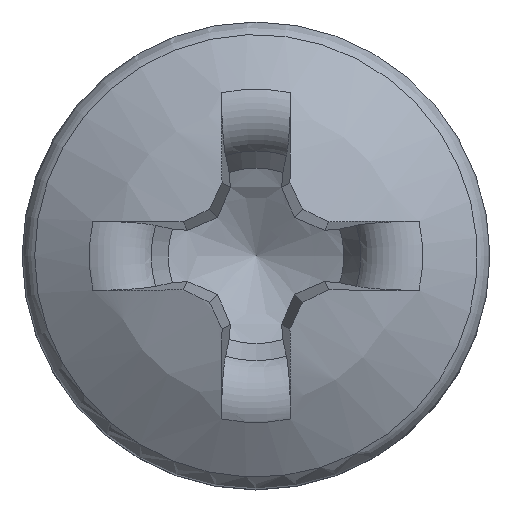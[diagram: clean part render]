
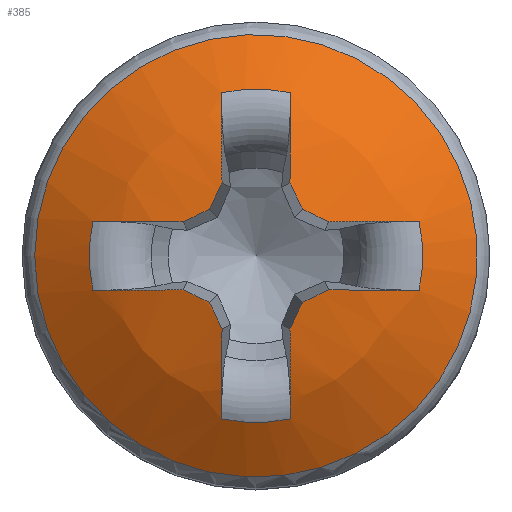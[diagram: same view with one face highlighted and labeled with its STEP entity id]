
A CAD part, top view. The second image highlights one B-rep face of the part: STEP entity #385.
In plain terms, the highlighted spherical face has radius 4.847 mm.
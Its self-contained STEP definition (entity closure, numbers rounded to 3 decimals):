
#348=SPHERICAL_SURFACE('',#2068,4.847);
#359=FACE_BOUND('',#640,.T.);
#360=FACE_BOUND('',#641,.T.);
#385=ADVANCED_FACE('',(#359,#360),#348,.T.);
#640=EDGE_LOOP('',(#863));
#641=EDGE_LOOP('',(#864,#865,#866,#867,#868,#869,#870,#871,#872,#873,#874,
#875,#876,#877,#878,#879,#880,#881,#882,#883));
#778=CIRCLE('',#2047,2.885);
#779=CIRCLE('',#2048,4.847);
#780=CIRCLE('',#2049,2.174);
#781=CIRCLE('',#2050,4.847);
#782=CIRCLE('',#2051,4.836);
#783=CIRCLE('',#2052,4.836);
#784=CIRCLE('',#2053,4.847);
#785=CIRCLE('',#2054,2.174);
#786=CIRCLE('',#2055,4.847);
#787=CIRCLE('',#2056,4.836);
#788=CIRCLE('',#2057,4.836);
#789=CIRCLE('',#2058,4.847);
#790=CIRCLE('',#2059,2.174);
#791=CIRCLE('',#2060,4.847);
#792=CIRCLE('',#2061,4.836);
#793=CIRCLE('',#2062,4.836);
#794=CIRCLE('',#2063,4.847);
#795=CIRCLE('',#2064,2.174);
#796=CIRCLE('',#2065,4.847);
#797=CIRCLE('',#2066,4.836);
#798=CIRCLE('',#2067,4.836);
#863=ORIENTED_EDGE('',*,*,#1633,.T.);
#864=ORIENTED_EDGE('',*,*,#1634,.F.);
#865=ORIENTED_EDGE('',*,*,#1635,.T.);
#866=ORIENTED_EDGE('',*,*,#1636,.F.);
#867=ORIENTED_EDGE('',*,*,#1637,.F.);
#868=ORIENTED_EDGE('',*,*,#1638,.F.);
#869=ORIENTED_EDGE('',*,*,#1639,.F.);
#870=ORIENTED_EDGE('',*,*,#1640,.T.);
#871=ORIENTED_EDGE('',*,*,#1641,.F.);
#872=ORIENTED_EDGE('',*,*,#1642,.F.);
#873=ORIENTED_EDGE('',*,*,#1643,.F.);
#874=ORIENTED_EDGE('',*,*,#1644,.F.);
#875=ORIENTED_EDGE('',*,*,#1645,.T.);
#876=ORIENTED_EDGE('',*,*,#1646,.F.);
#877=ORIENTED_EDGE('',*,*,#1647,.F.);
#878=ORIENTED_EDGE('',*,*,#1648,.F.);
#879=ORIENTED_EDGE('',*,*,#1649,.F.);
#880=ORIENTED_EDGE('',*,*,#1650,.T.);
#881=ORIENTED_EDGE('',*,*,#1651,.F.);
#882=ORIENTED_EDGE('',*,*,#1652,.F.);
#883=ORIENTED_EDGE('',*,*,#1653,.F.);
#1453=VERTEX_POINT('',#4444);
#1454=VERTEX_POINT('',#4446);
#1455=VERTEX_POINT('',#4447);
#1456=VERTEX_POINT('',#4449);
#1457=VERTEX_POINT('',#4451);
#1458=VERTEX_POINT('',#4453);
#1459=VERTEX_POINT('',#4455);
#1460=VERTEX_POINT('',#4457);
#1461=VERTEX_POINT('',#4459);
#1462=VERTEX_POINT('',#4461);
#1463=VERTEX_POINT('',#4463);
#1464=VERTEX_POINT('',#4465);
#1465=VERTEX_POINT('',#4467);
#1466=VERTEX_POINT('',#4469);
#1467=VERTEX_POINT('',#4471);
#1468=VERTEX_POINT('',#4473);
#1469=VERTEX_POINT('',#4475);
#1470=VERTEX_POINT('',#4477);
#1471=VERTEX_POINT('',#4479);
#1472=VERTEX_POINT('',#4481);
#1473=VERTEX_POINT('',#4483);
#1633=EDGE_CURVE('',#1453,#1453,#778,.T.);
#1634=EDGE_CURVE('',#1454,#1455,#779,.T.);
#1635=EDGE_CURVE('',#1454,#1456,#780,.T.);
#1636=EDGE_CURVE('',#1457,#1456,#781,.T.);
#1637=EDGE_CURVE('',#1458,#1457,#782,.T.);
#1638=EDGE_CURVE('',#1459,#1458,#783,.T.);
#1639=EDGE_CURVE('',#1460,#1459,#784,.T.);
#1640=EDGE_CURVE('',#1460,#1461,#785,.T.);
#1641=EDGE_CURVE('',#1462,#1461,#786,.T.);
#1642=EDGE_CURVE('',#1463,#1462,#787,.T.);
#1643=EDGE_CURVE('',#1464,#1463,#788,.T.);
#1644=EDGE_CURVE('',#1465,#1464,#789,.T.);
#1645=EDGE_CURVE('',#1465,#1466,#790,.T.);
#1646=EDGE_CURVE('',#1467,#1466,#791,.T.);
#1647=EDGE_CURVE('',#1468,#1467,#792,.T.);
#1648=EDGE_CURVE('',#1469,#1468,#793,.T.);
#1649=EDGE_CURVE('',#1470,#1469,#794,.T.);
#1650=EDGE_CURVE('',#1470,#1471,#795,.T.);
#1651=EDGE_CURVE('',#1472,#1471,#796,.T.);
#1652=EDGE_CURVE('',#1473,#1472,#797,.T.);
#1653=EDGE_CURVE('',#1455,#1473,#798,.T.);
#2047=AXIS2_PLACEMENT_3D('',#4443,#2132,#2133);
#2048=AXIS2_PLACEMENT_3D('',#4445,#2134,#2135);
#2049=AXIS2_PLACEMENT_3D('',#4448,#2136,#2137);
#2050=AXIS2_PLACEMENT_3D('',#4450,#2138,#2139);
#2051=AXIS2_PLACEMENT_3D('',#4452,#2140,#2141);
#2052=AXIS2_PLACEMENT_3D('',#4454,#2142,#2143);
#2053=AXIS2_PLACEMENT_3D('',#4456,#2144,#2145);
#2054=AXIS2_PLACEMENT_3D('',#4458,#2146,#2147);
#2055=AXIS2_PLACEMENT_3D('',#4460,#2148,#2149);
#2056=AXIS2_PLACEMENT_3D('',#4462,#2150,#2151);
#2057=AXIS2_PLACEMENT_3D('',#4464,#2152,#2153);
#2058=AXIS2_PLACEMENT_3D('',#4466,#2154,#2155);
#2059=AXIS2_PLACEMENT_3D('',#4468,#2156,#2157);
#2060=AXIS2_PLACEMENT_3D('',#4470,#2158,#2159);
#2061=AXIS2_PLACEMENT_3D('',#4472,#2160,#2161);
#2062=AXIS2_PLACEMENT_3D('',#4474,#2162,#2163);
#2063=AXIS2_PLACEMENT_3D('',#4476,#2164,#2165);
#2064=AXIS2_PLACEMENT_3D('',#4478,#2166,#2167);
#2065=AXIS2_PLACEMENT_3D('',#4480,#2168,#2169);
#2066=AXIS2_PLACEMENT_3D('',#4482,#2170,#2171);
#2067=AXIS2_PLACEMENT_3D('',#4484,#2172,#2173);
#2068=AXIS2_PLACEMENT_3D('',#4485,#2174,#2175);
#2132=DIRECTION('',(0.,0.,1.));
#2133=DIRECTION('',(-1.,0.,0.));
#2134=DIRECTION('',(-0.996,-0.035,0.087));
#2135=DIRECTION('',(0.087,0.,0.996));
#2136=DIRECTION('',(0.,0.,-1.));
#2137=DIRECTION('',(-1.,0.,0.));
#2138=DIRECTION('',(0.996,-0.035,0.087));
#2139=DIRECTION('',(0.087,0.,-0.996));
#2140=DIRECTION('',(0.902,0.42,0.1));
#2141=DIRECTION('',(-0.423,0.906,0.));
#2142=DIRECTION('',(0.42,0.902,0.1));
#2143=DIRECTION('',(-0.906,0.423,0.));
#2144=DIRECTION('',(-0.035,0.996,0.087));
#2145=DIRECTION('',(0.,-0.087,0.996));
#2146=DIRECTION('',(0.,0.,-1.));
#2147=DIRECTION('',(-1.,0.,0.));
#2148=DIRECTION('',(-0.035,-0.996,0.087));
#2149=DIRECTION('',(0.,-0.087,-0.996));
#2150=DIRECTION('',(0.42,-0.902,0.1));
#2151=DIRECTION('',(0.906,0.423,0.));
#2152=DIRECTION('',(0.902,-0.42,0.1));
#2153=DIRECTION('',(0.423,0.906,0.));
#2154=DIRECTION('',(0.996,0.035,0.087));
#2155=DIRECTION('',(0.087,0.,-0.996));
#2156=DIRECTION('',(0.,0.,-1.));
#2157=DIRECTION('',(-1.,0.,0.));
#2158=DIRECTION('',(-0.996,0.035,0.087));
#2159=DIRECTION('',(0.087,0.,0.996));
#2160=DIRECTION('',(-0.902,-0.42,0.1));
#2161=DIRECTION('',(0.423,-0.906,0.));
#2162=DIRECTION('',(-0.42,-0.902,0.1));
#2163=DIRECTION('',(0.906,-0.423,0.));
#2164=DIRECTION('',(0.035,-0.996,0.087));
#2165=DIRECTION('',(0.,-0.087,-0.996));
#2166=DIRECTION('',(0.,0.,-1.));
#2167=DIRECTION('',(-1.,0.,0.));
#2168=DIRECTION('',(0.035,0.996,0.087));
#2169=DIRECTION('',(0.,-0.087,0.996));
#2170=DIRECTION('',(-0.42,0.902,0.1));
#2171=DIRECTION('',(-0.906,-0.423,0.));
#2172=DIRECTION('',(-0.902,0.42,0.1));
#2173=DIRECTION('',(-0.423,-0.906,0.));
#2174=DIRECTION('',(0.,0.,1.));
#2175=DIRECTION('',(0.,1.,0.));
#4443=CARTESIAN_POINT('',(0.,0.,1.747));
#4444=CARTESIAN_POINT('',(-2.885,0.,1.747));
#4445=CARTESIAN_POINT('',(-0.005,0.,-2.146));
#4446=CARTESIAN_POINT('',(0.449,-2.127,2.185));
#4447=CARTESIAN_POINT('',(0.443,-0.951,2.585));
#4448=CARTESIAN_POINT('',(0.,0.,2.185));
#4449=CARTESIAN_POINT('',(-0.449,-2.127,2.185));
#4450=CARTESIAN_POINT('',(0.005,0.,-2.146));
#4451=CARTESIAN_POINT('',(-0.443,-0.951,2.585));
#4452=CARTESIAN_POINT('',(-0.293,-0.137,-2.179));
#4453=CARTESIAN_POINT('',(-0.607,-0.607,2.623));
#4454=CARTESIAN_POINT('',(-0.137,-0.293,-2.179));
#4455=CARTESIAN_POINT('',(-0.951,-0.443,2.585));
#4456=CARTESIAN_POINT('',(0.,0.005,-2.146));
#4457=CARTESIAN_POINT('',(-2.127,-0.449,2.185));
#4458=CARTESIAN_POINT('',(0.,0.,2.185));
#4459=CARTESIAN_POINT('',(-2.127,0.449,2.185));
#4460=CARTESIAN_POINT('',(0.,-0.005,-2.146));
#4461=CARTESIAN_POINT('',(-0.951,0.443,2.585));
#4462=CARTESIAN_POINT('',(-0.137,0.293,-2.179));
#4463=CARTESIAN_POINT('',(-0.607,0.607,2.623));
#4464=CARTESIAN_POINT('',(-0.293,0.137,-2.179));
#4465=CARTESIAN_POINT('',(-0.443,0.951,2.585));
#4466=CARTESIAN_POINT('',(0.005,0.,-2.146));
#4467=CARTESIAN_POINT('',(-0.449,2.127,2.185));
#4468=CARTESIAN_POINT('',(0.,0.,2.185));
#4469=CARTESIAN_POINT('',(0.449,2.127,2.185));
#4470=CARTESIAN_POINT('',(-0.005,0.,-2.146));
#4471=CARTESIAN_POINT('',(0.443,0.951,2.585));
#4472=CARTESIAN_POINT('',(0.293,0.137,-2.179));
#4473=CARTESIAN_POINT('',(0.607,0.607,2.623));
#4474=CARTESIAN_POINT('',(0.137,0.293,-2.179));
#4475=CARTESIAN_POINT('',(0.951,0.443,2.585));
#4476=CARTESIAN_POINT('',(0.,-0.005,-2.146));
#4477=CARTESIAN_POINT('',(2.127,0.449,2.185));
#4478=CARTESIAN_POINT('',(0.,0.,2.185));
#4479=CARTESIAN_POINT('',(2.127,-0.449,2.185));
#4480=CARTESIAN_POINT('',(0.,0.005,-2.146));
#4481=CARTESIAN_POINT('',(0.951,-0.443,2.585));
#4482=CARTESIAN_POINT('',(0.137,-0.293,-2.179));
#4483=CARTESIAN_POINT('',(0.607,-0.607,2.623));
#4484=CARTESIAN_POINT('',(0.293,-0.137,-2.179));
#4485=CARTESIAN_POINT('',(0.,0.,-2.147));
